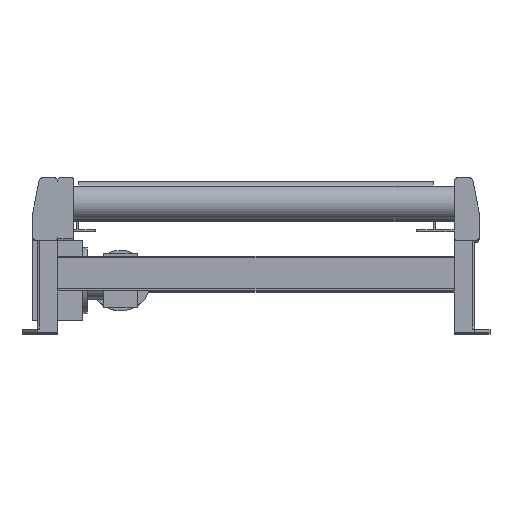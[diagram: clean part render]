
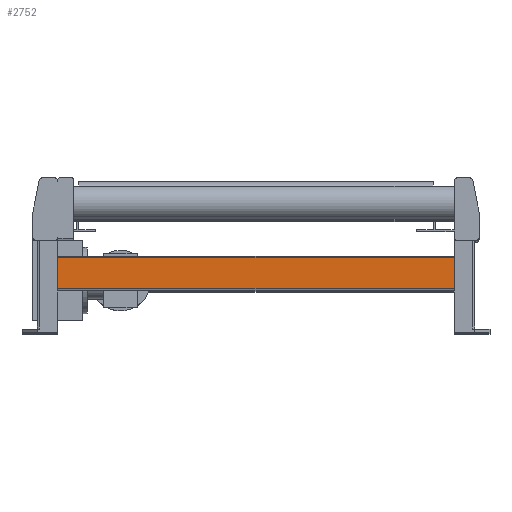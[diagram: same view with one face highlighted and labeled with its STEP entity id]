
A CAD part, top view. The second image highlights one B-rep face of the part: STEP entity #2752.
In plain terms, the highlighted planar face has unit normal (0, 0, 1).
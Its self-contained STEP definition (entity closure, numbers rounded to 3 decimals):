
#2627=CARTESIAN_POINT('',(-475.,-37.,-185.));
#2628=VERTEX_POINT('',#2627);
#2629=CARTESIAN_POINT('',(-475.,-120.0,-185.));
#2630=VERTEX_POINT('',#2629);
#2631=CARTESIAN_POINT('',(-475.,-37.,-185.));
#2632=DIRECTION('',(0.0,-1.0,0.0));
#2633=VECTOR('',#2632,83.0);
#2634=LINE('',#2631,#2633);
#2635=EDGE_CURVE('',#2628,#2630,#2634,.T.);
#2722=CARTESIAN_POINT('',(475.,-120.0,-185.));
#2723=DIRECTION('',(0.0,0.0,1.0));
#2724=DIRECTION('',(0.0,1.0,0.0));
#2725=AXIS2_PLACEMENT_3D('',#2722,#2723,#2724);
#2726=PLANE('',#2725);
#2727=CARTESIAN_POINT('',(475.,-37.,-185.));
#2728=VERTEX_POINT('',#2727);
#2729=CARTESIAN_POINT('',(475.,-120.0,-185.));
#2730=VERTEX_POINT('',#2729);
#2731=CARTESIAN_POINT('',(475.,-37.,-185.));
#2732=DIRECTION('',(0.0,-1.0,0.0));
#2733=VECTOR('',#2732,83.0);
#2734=LINE('',#2731,#2733);
#2735=EDGE_CURVE('',#2728,#2730,#2734,.T.);
#2736=ORIENTED_EDGE('',*,*,#2735,.F.);
#2737=CARTESIAN_POINT('',(475.,-37.,-185.));
#2738=DIRECTION('',(-1.0,0.0,0.0));
#2739=VECTOR('',#2738,950.0);
#2740=LINE('',#2737,#2739);
#2741=EDGE_CURVE('',#2728,#2628,#2740,.T.);
#2742=ORIENTED_EDGE('',*,*,#2741,.T.);
#2743=ORIENTED_EDGE('',*,*,#2635,.T.);
#2744=CARTESIAN_POINT('',(475.,-120.0,-185.));
#2745=DIRECTION('',(-1.0,0.0,0.0));
#2746=VECTOR('',#2745,950.0);
#2747=LINE('',#2744,#2746);
#2748=EDGE_CURVE('',#2730,#2630,#2747,.T.);
#2749=ORIENTED_EDGE('',*,*,#2748,.F.);
#2750=EDGE_LOOP('',(#2736,#2742,#2743,#2749));
#2751=FACE_OUTER_BOUND('',#2750,.T.);
#2752=ADVANCED_FACE('',(#2751),#2726,.T.);
